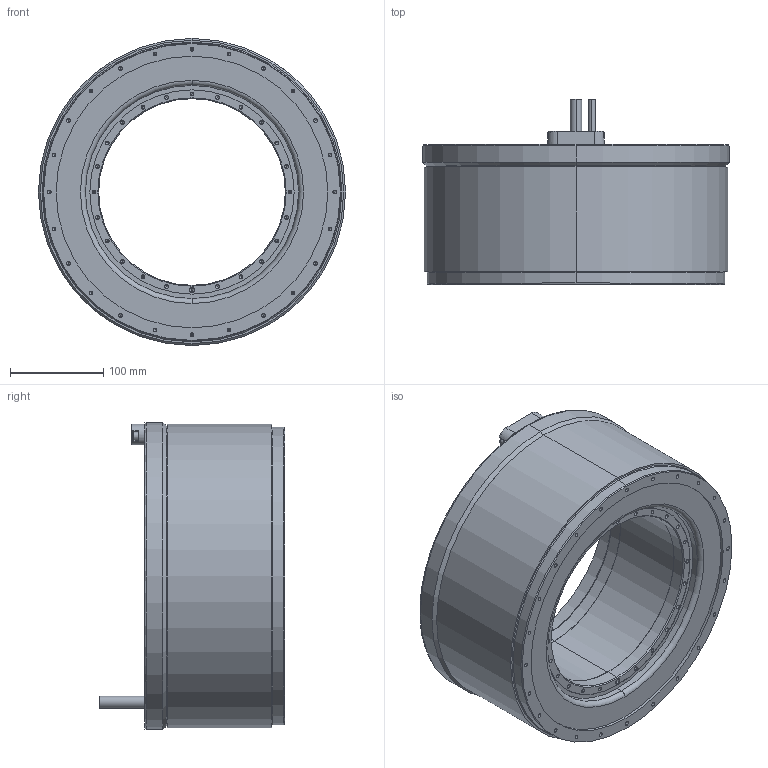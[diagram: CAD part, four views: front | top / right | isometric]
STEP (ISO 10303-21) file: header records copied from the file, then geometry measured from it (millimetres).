
FILE_DESCRIPTION (( 'STEP AP203' ), '1' );
FILE_NAME ('TM-2-7B-PB0(J0).STEP', '2023-06-06T01:26:52', ( '' ), ( '' ), 'SwSTEP 2.0', 'SolidWorks 2015', '' );
FILE_SCHEMA (( 'CONFIG_CONTROL_DESIGN' ));
Length unit declared in the file: millimetre
Products named in the file (3): TM-2-7B-PB0(J0); TM-2-7B(J0)_Rotor; TM-2-7B-PB0(J0)_Stator
Assembly tree (2 placements, depth 2):
  TM-2-7B-PB0(J0)
    TM-2-7B-PB0(J0)_Stator
    TM-2-7B(J0)_Rotor
Bounding box: 329 x 199 x 329 mm (x, y, z)
Volume: 7197170.1 mm3; surface area: 539198 mm2
Topology: 2 solids, 2 shells, 510 faces, 1244 edges, 656 vertices
Faces by surface type: cylinder 244, cone 216, plane 44, torus 6
Entity records: 13807 total; most frequent: DIRECTION 2604, CARTESIAN_POINT 2219, ORIENTED_EDGE 2096, EDGE_CURVE 1048, AXIS2_PLACEMENT_3D 1041, VERTEX_POINT 656, EDGE_LOOP 628, CIRCLE 526
